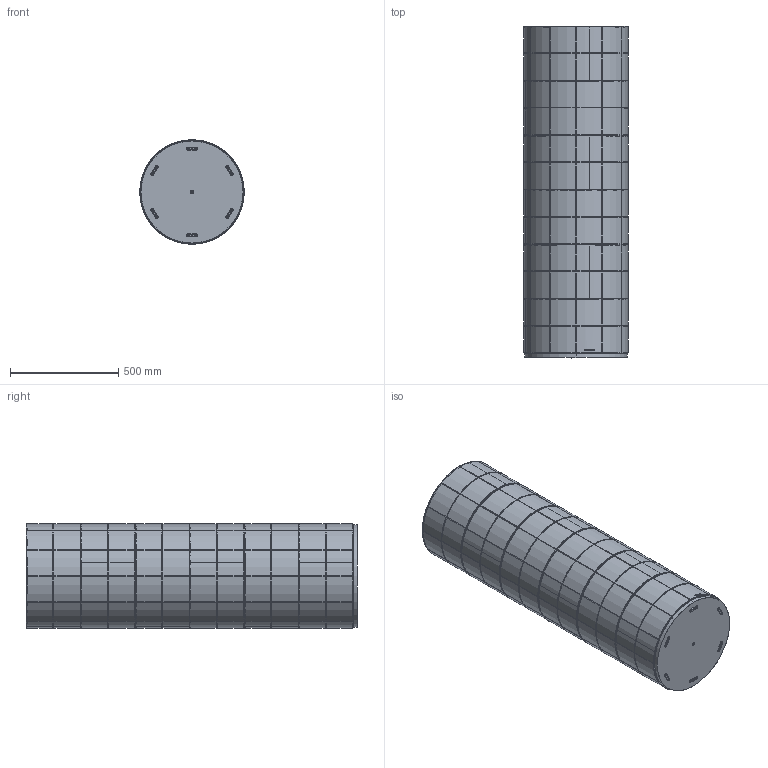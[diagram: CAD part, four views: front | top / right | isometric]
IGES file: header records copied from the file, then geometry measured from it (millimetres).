
Start section: SolidWorks IGES file using analytic representation for surfaces
Global section: file name: \\UTENTI\Dati Utenti\Tecnico\DC\2D - 3D per sito\3D\DeCastelli-3D-Pandora 152-6 Drawers.igs; native system: SolidWorks 2022; preprocessor: SolidWorks 2022; author: maria; date: 240723.165357; units: millimetre
Bounding box: 482.87 x 1534.2 x 482.87 mm (x, y, z)
Surface area: 5555521.7 mm2 (no closed solid volume)
Topology: 0 solids, 0 shells, 630 faces, 14755 edges, 14755 vertices
Faces by surface type: bspline 347, revolution 283
